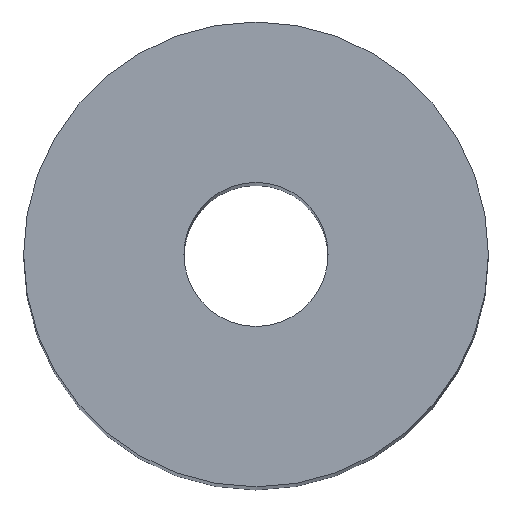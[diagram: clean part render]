
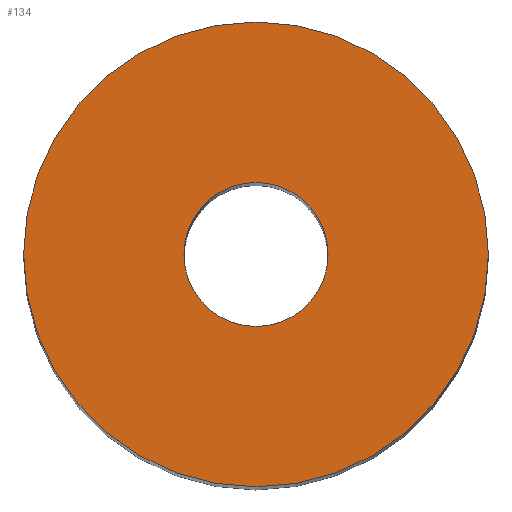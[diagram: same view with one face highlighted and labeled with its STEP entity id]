
A CAD part, top view. The second image highlights one B-rep face of the part: STEP entity #134.
In plain terms, the highlighted planar face has unit normal (0, 0, 1).
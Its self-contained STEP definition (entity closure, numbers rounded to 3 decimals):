
#29=CARTESIAN_POINT('',(0.,0.,38.5));
#30=DIRECTION('',(0.,0.,1.));
#31=DIRECTION('',(1.,0.,0.));
#32=AXIS2_PLACEMENT_3D('',#29,#30,#31);
#34=CARTESIAN_POINT('',(0.,0.,38.5));
#35=DIRECTION('',(0.,0.,1.));
#36=DIRECTION('',(-1.,0.,0.));
#37=AXIS2_PLACEMENT_3D('',#34,#35,#36);
#39=CARTESIAN_POINT('',(0.,0.,38.5));
#40=DIRECTION('',(0.,0.,-1.));
#41=DIRECTION('',(1.,0.,0.));
#42=AXIS2_PLACEMENT_3D('',#39,#40,#41);
#44=CARTESIAN_POINT('',(0.,0.,38.5));
#45=DIRECTION('',(0.,0.,-1.));
#46=DIRECTION('',(-1.,0.,0.));
#47=AXIS2_PLACEMENT_3D('',#44,#45,#46);
#65=CARTESIAN_POINT('',(10.,0.,38.5));
#66=CARTESIAN_POINT('',(-10.,0.,38.5));
#67=VERTEX_POINT('',#65);
#68=VERTEX_POINT('',#66);
#69=CARTESIAN_POINT('',(3.1,0.,38.5));
#70=CARTESIAN_POINT('',(-3.1,0.,38.5));
#71=VERTEX_POINT('',#69);
#72=VERTEX_POINT('',#70);
#119=CARTESIAN_POINT('',(0.,0.,38.5));
#120=DIRECTION('',(0.,0.,1.));
#121=DIRECTION('',(1.,0.,0.));
#122=AXIS2_PLACEMENT_3D('',#119,#120,#121);
#123=PLANE('',#122);
#124=ORIENTED_EDGE('',*,*,#99,.F.);
#125=ORIENTED_EDGE('',*,*,#113,.F.);
#126=EDGE_LOOP('',(#124,#125));
#127=FACE_OUTER_BOUND('',#126,.F.);
#129=ORIENTED_EDGE('',*,*,#128,.F.);
#131=ORIENTED_EDGE('',*,*,#130,.F.);
#132=EDGE_LOOP('',(#129,#131));
#133=FACE_BOUND('',#132,.F.);
#134=ADVANCED_FACE('',(#127,#133),#123,.T.);
#33=CIRCLE('',#32,10.);
#38=CIRCLE('',#37,10.);
#43=CIRCLE('',#42,3.1);
#48=CIRCLE('',#47,3.1);
#99=EDGE_CURVE('',#67,#68,#33,.T.);
#113=EDGE_CURVE('',#68,#67,#38,.T.);
#128=EDGE_CURVE('',#71,#72,#43,.T.);
#130=EDGE_CURVE('',#72,#71,#48,.T.);
